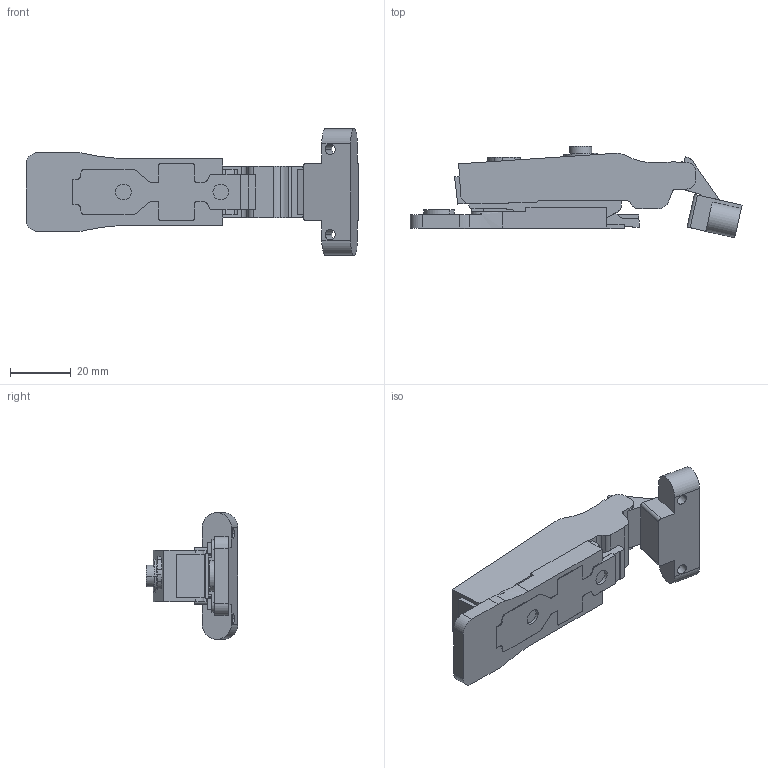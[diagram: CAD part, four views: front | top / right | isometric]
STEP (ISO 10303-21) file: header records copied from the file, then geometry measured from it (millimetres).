
FILE_DESCRIPTION (( 'STEP AP203' ), '1' );
FILE_NAME ('C80A678F+80H20YQ-DTC 3D open.STEP', '2023-10-07T07:02:38', ( 'Windows 蚚誧' ), ( '' ), 'SwSTEP 2.0', 'SolidWorks 2018', '' );
FILE_SCHEMA (( 'CONFIG_CONTROL_DESIGN' ));
Length unit declared in the file: millimetre
Products named in the file (1): C80A678F+80H20YQ-DTC 3D  open
Bounding box: 109.02 x 30.07 x 41.6 mm (x, y, z)
Volume: 35154.8 mm3; surface area: 11306.5 mm2
Topology: 1 solids, 1 shells, 218 faces, 626 edges, 417 vertices
Faces by surface type: plane 114, cylinder 96, bspline 4, torus 2, cone 2
Entity records: 7449 total; most frequent: CARTESIAN_POINT 1524, ORIENTED_EDGE 1252, DIRECTION 1227, EDGE_CURVE 626, VERTEX_POINT 417, VECTOR 411, LINE 411, AXIS2_PLACEMENT_3D 408
